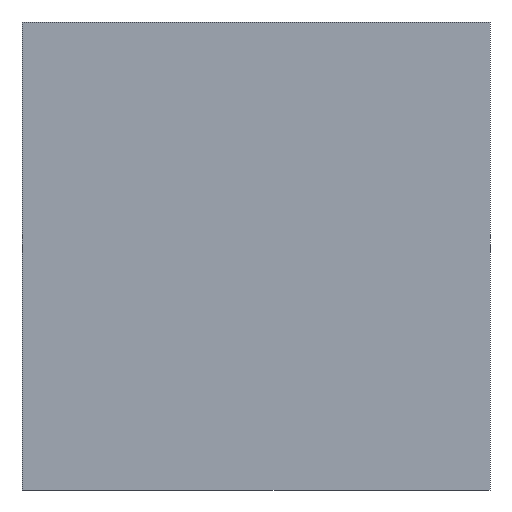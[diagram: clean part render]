
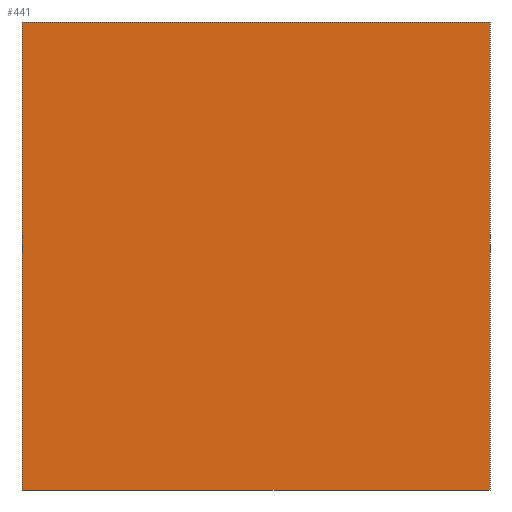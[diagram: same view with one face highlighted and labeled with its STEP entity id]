
A CAD part, front view. The second image highlights one B-rep face of the part: STEP entity #441.
In plain terms, the highlighted planar face has unit normal (0, -1, 0).
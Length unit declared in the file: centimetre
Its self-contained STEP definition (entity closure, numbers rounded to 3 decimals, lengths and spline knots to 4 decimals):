
#8 = CARTESIAN_POINT ( 'NONE',  ( 0., 0., 1000. ) ) ;
#14 = DIRECTION ( 'NONE',  ( 0., 0., 1. ) ) ;
#32 = DIRECTION ( 'NONE',  ( 0., 0., -1. ) ) ;
#35 = DIRECTION ( 'NONE',  ( 1., 0., 0. ) ) ;
#64 = CARTESIAN_POINT ( 'NONE',  ( 0., 0., 0. ) ) ;
#91 = EDGE_CURVE ( 'NONE', #282, #462, #380, .T. ) ;
#103 = LINE ( 'NONE', #8, #350 ) ;
#129 = ORIENTED_EDGE ( 'NONE', *, *, #91, .T. ) ;
#134 = EDGE_CURVE ( 'NONE', #462, #414, #435, .T. ) ;
#166 = ORIENTED_EDGE ( 'NONE', *, *, #134, .T. ) ;
#177 = LINE ( 'NONE', #481, #215 ) ;
#184 = EDGE_CURVE ( 'NONE', #385, #414, #177, .T. ) ;
#190 = AXIS2_PLACEMENT_3D ( 'NONE', #461, #413, #14 ) ;
#197 = CARTESIAN_POINT ( 'NONE',  ( 1000., 0., 1000. ) ) ;
#215 = VECTOR ( 'NONE', #256, 100. ) ;
#256 = DIRECTION ( 'NONE',  ( 0., 0., -1. ) ) ;
#279 = PLANE ( 'NONE',  #190 ) ;
#282 = VERTEX_POINT ( 'NONE', #525 ) ;
#300 = EDGE_CURVE ( 'NONE', #282, #385, #103, .T. ) ;
#350 = VECTOR ( 'NONE', #357, 100. ) ;
#357 = DIRECTION ( 'NONE',  ( 1., 0., 0. ) ) ;
#364 = FACE_OUTER_BOUND ( 'NONE', #405, .T. ) ;
#368 = ORIENTED_EDGE ( 'NONE', *, *, #300, .F. ) ;
#380 = LINE ( 'NONE', #522, #521 ) ;
#385 = VERTEX_POINT ( 'NONE', #197 ) ;
#405 = EDGE_LOOP ( 'NONE', ( #166, #455, #368, #129 ) ) ;
#413 = DIRECTION ( 'NONE',  ( 0., 1., 0. ) ) ;
#414 = VERTEX_POINT ( 'NONE', #506 ) ;
#417 = VECTOR ( 'NONE', #35, 100. ) ;
#435 = LINE ( 'NONE', #553, #417 ) ;
#441 = ADVANCED_FACE ( 'NONE', ( #364 ), #279, .F. ) ;
#455 = ORIENTED_EDGE ( 'NONE', *, *, #184, .F. ) ;
#461 = CARTESIAN_POINT ( 'NONE',  ( 0., 0., 1000. ) ) ;
#462 = VERTEX_POINT ( 'NONE', #64 ) ;
#481 = CARTESIAN_POINT ( 'NONE',  ( 1000., 0., 1000. ) ) ;
#506 = CARTESIAN_POINT ( 'NONE',  ( 1000., 0., 0. ) ) ;
#521 = VECTOR ( 'NONE', #32, 100. ) ;
#522 = CARTESIAN_POINT ( 'NONE',  ( 0., 0., 1000. ) ) ;
#525 = CARTESIAN_POINT ( 'NONE',  ( 0., 0., 1000. ) ) ;
#553 = CARTESIAN_POINT ( 'NONE',  ( 0., 0., 0. ) ) ;
